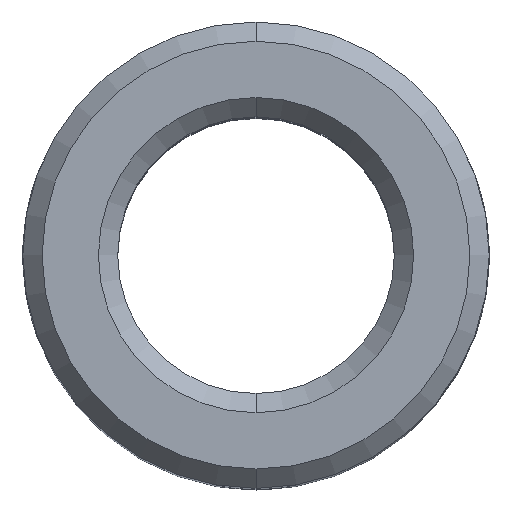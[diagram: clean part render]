
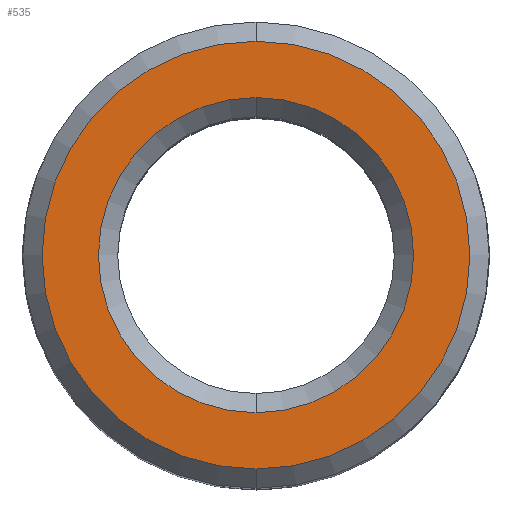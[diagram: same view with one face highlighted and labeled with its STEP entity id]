
A CAD part, top view. The second image highlights one B-rep face of the part: STEP entity #535.
In plain terms, the highlighted planar face has unit normal (0, 0, 1).
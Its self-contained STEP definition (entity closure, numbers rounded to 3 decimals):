
#4 = AXIS2_PLACEMENT_3D ( 'NONE', #475, #1256, #601 ) ;
#94 = VERTEX_POINT ( 'NONE', #326 ) ;
#157 = DIRECTION ( 'NONE',  ( 0., 1., 0. ) ) ;
#203 = AXIS2_PLACEMENT_3D ( 'NONE', #867, #798, #806 ) ;
#254 = DIRECTION ( 'NONE',  ( 0., 0., -1. ) ) ;
#264 = DIRECTION ( 'NONE',  ( 0., 1., 0. ) ) ;
#326 = CARTESIAN_POINT ( 'NONE',  ( 0., 49., 0. ) ) ;
#343 = EDGE_CURVE ( 'NONE', #753, #94, #1030, .T. ) ;
#388 = CARTESIAN_POINT ( 'NONE',  ( 0., 0., 0. ) ) ;
#475 = CARTESIAN_POINT ( 'NONE',  ( 0., 0., 0. ) ) ;
#530 = CARTESIAN_POINT ( 'NONE',  ( 0., 43., 0. ) ) ;
#535 = ADVANCED_FACE ( 'NONE', ( #1292, #1033 ), #1103, .F. ) ;
#583 = CIRCLE ( 'NONE', #933, 66.5 ) ;
#601 = DIRECTION ( 'NONE',  ( 0., 1., 0. ) ) ;
#623 = EDGE_CURVE ( 'NONE', #624, #932, #583, .T. ) ;
#624 = VERTEX_POINT ( 'NONE', #1286 ) ;
#627 = ORIENTED_EDGE ( 'NONE', *, *, #789, .T. ) ;
#753 = VERTEX_POINT ( 'NONE', #1226 ) ;
#775 = AXIS2_PLACEMENT_3D ( 'NONE', #530, #1000, #157 ) ;
#789 = EDGE_CURVE ( 'NONE', #932, #624, #1401, .T. ) ;
#798 = DIRECTION ( 'NONE',  ( 0., 0., -1. ) ) ;
#806 = DIRECTION ( 'NONE',  ( 0., 1., 0. ) ) ;
#822 = CIRCLE ( 'NONE', #1128, 49. ) ;
#867 = CARTESIAN_POINT ( 'NONE',  ( 0., 0., 0. ) ) ;
#932 = VERTEX_POINT ( 'NONE', #1123 ) ;
#933 = AXIS2_PLACEMENT_3D ( 'NONE', #388, #1091, #264 ) ;
#979 = CARTESIAN_POINT ( 'NONE',  ( 0., 0., 0. ) ) ;
#1000 = DIRECTION ( 'NONE',  ( 0., 0., -1. ) ) ;
#1025 = ORIENTED_EDGE ( 'NONE', *, *, #1196, .T. ) ;
#1030 = CIRCLE ( 'NONE', #203, 49. ) ;
#1033 = FACE_OUTER_BOUND ( 'NONE', #1220, .T. ) ;
#1062 = EDGE_LOOP ( 'NONE', ( #1097, #1025 ) ) ;
#1084 = DIRECTION ( 'NONE',  ( 0., 1., 0. ) ) ;
#1091 = DIRECTION ( 'NONE',  ( 0., 0., 1. ) ) ;
#1097 = ORIENTED_EDGE ( 'NONE', *, *, #343, .T. ) ;
#1103 = PLANE ( 'NONE',  #775 ) ;
#1123 = CARTESIAN_POINT ( 'NONE',  ( 0., -66.5, 0. ) ) ;
#1128 = AXIS2_PLACEMENT_3D ( 'NONE', #979, #254, #1084 ) ;
#1196 = EDGE_CURVE ( 'NONE', #94, #753, #822, .T. ) ;
#1220 = EDGE_LOOP ( 'NONE', ( #1324, #627 ) ) ;
#1226 = CARTESIAN_POINT ( 'NONE',  ( 0., -49., 0. ) ) ;
#1256 = DIRECTION ( 'NONE',  ( 0., 0., 1. ) ) ;
#1286 = CARTESIAN_POINT ( 'NONE',  ( 0., 66.5, 0. ) ) ;
#1292 = FACE_BOUND ( 'NONE', #1062, .T. ) ;
#1324 = ORIENTED_EDGE ( 'NONE', *, *, #623, .T. ) ;
#1401 = CIRCLE ( 'NONE', #4, 66.5 ) ;
